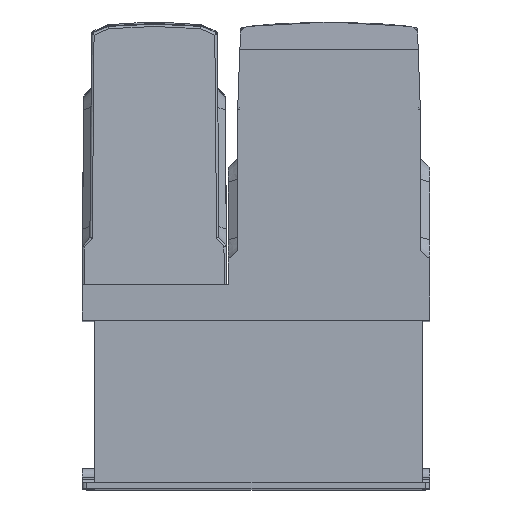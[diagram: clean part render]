
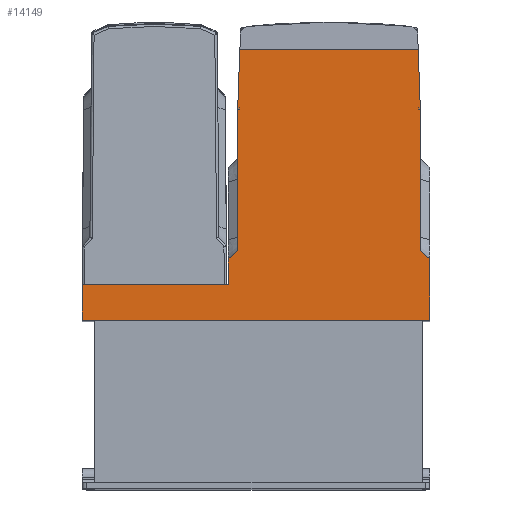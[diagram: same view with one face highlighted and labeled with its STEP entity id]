
A CAD part, top view. The second image highlights one B-rep face of the part: STEP entity #14149.
In plain terms, the highlighted planar face has unit normal (0, 0, 1).
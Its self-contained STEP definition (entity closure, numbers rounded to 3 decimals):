
#275 = VERTEX_POINT ( 'NONE', #8130 ) ;
#338 = EDGE_CURVE ( 'NONE', #3368, #38285, #61785, .T. ) ;
#754 = ORIENTED_EDGE ( 'NONE', *, *, #79773, .F. ) ;
#1113 = DIRECTION ( 'NONE',  ( 1., 0., 0. ) ) ;
#1115 = LINE ( 'NONE', #24025, #34637 ) ;
#1148 = LINE ( 'NONE', #78600, #1632 ) ;
#1507 = LINE ( 'NONE', #39950, #91538 ) ;
#1632 = VECTOR ( 'NONE', #79571, 1000. ) ;
#2158 = EDGE_CURVE ( 'NONE', #29236, #86914, #58835, .T. ) ;
#2391 = LINE ( 'NONE', #32824, #98631 ) ;
#3368 = VERTEX_POINT ( 'NONE', #23032 ) ;
#4167 = CARTESIAN_POINT ( 'NONE',  ( 66.5, 155.673, 182.25 ) ) ;
#4655 = VECTOR ( 'NONE', #25195, 1000. ) ;
#5837 = CARTESIAN_POINT ( 'NONE',  ( -7.8, 155.697, 182.25 ) ) ;
#6347 = LINE ( 'NONE', #5837, #33909 ) ;
#8130 = CARTESIAN_POINT ( 'NONE',  ( 66.5, 97.673, 182.25 ) ) ;
#8649 = ORIENTED_EDGE ( 'NONE', *, *, #28658, .F. ) ;
#9796 = EDGE_CURVE ( 'NONE', #86914, #23557, #1148, .T. ) ;
#10754 = CARTESIAN_POINT ( 'NONE',  ( -72.5, 69.173, 182.25 ) ) ;
#11815 = VERTEX_POINT ( 'NONE', #51881 ) ;
#14142 = CARTESIAN_POINT ( 'NONE',  ( -72.5, 69.173, 182.25 ) ) ;
#14149 = ADVANCED_FACE ( 'NONE', ( #86079 ), #23542, .T. ) ;
#15318 = CARTESIAN_POINT ( 'NONE',  ( 65.8, 155.697, 182.25 ) ) ;
#17684 = VECTOR ( 'NONE', #34563, 1000. ) ;
#18222 = ORIENTED_EDGE ( 'NONE', *, *, #2158, .T. ) ;
#18827 = VERTEX_POINT ( 'NONE', #48163 ) ;
#18910 = CARTESIAN_POINT ( 'NONE',  ( -12.5, 83.673, 182.25 ) ) ;
#19228 = CARTESIAN_POINT ( 'NONE',  ( -12.5, 83.673, 182.25 ) ) ;
#19393 = CARTESIAN_POINT ( 'NONE',  ( 66.5, 155.673, 182.25 ) ) ;
#20828 = VECTOR ( 'NONE', #92107, 1000. ) ;
#22192 = LINE ( 'NONE', #60165, #20828 ) ;
#23032 = CARTESIAN_POINT ( 'NONE',  ( -72.5, 69.173, 182.25 ) ) ;
#23542 = PLANE ( 'NONE',  #74757 ) ;
#23557 = VERTEX_POINT ( 'NONE', #72642 ) ;
#23812 = EDGE_CURVE ( 'NONE', #44400, #18827, #1115, .T. ) ;
#24025 = CARTESIAN_POINT ( 'NONE',  ( -8.5, 156.422, 182.25 ) ) ;
#25195 = DIRECTION ( 'NONE',  ( 1., 0., 0. ) ) ;
#25840 = VERTEX_POINT ( 'NONE', #43135 ) ;
#25977 = EDGE_CURVE ( 'NONE', #25840, #41417, #97935, .T. ) ;
#26349 = LINE ( 'NONE', #18910, #96656 ) ;
#26509 = CARTESIAN_POINT ( 'NONE',  ( -8.5, 156.422, 182.25 ) ) ;
#26982 = ORIENTED_EDGE ( 'NONE', *, *, #75261, .F. ) ;
#28079 = EDGE_CURVE ( 'NONE', #275, #29236, #91278, .T. ) ;
#28658 = EDGE_CURVE ( 'NONE', #91242, #71726, #26349, .T. ) ;
#28703 = ORIENTED_EDGE ( 'NONE', *, *, #94409, .T. ) ;
#29236 = VERTEX_POINT ( 'NONE', #4167 ) ;
#29416 = DIRECTION ( 'NONE',  ( -0.999, -0.035, 0. ) ) ;
#29612 = EDGE_CURVE ( 'NONE', #36318, #18827, #74538, .T. ) ;
#30135 = CARTESIAN_POINT ( 'NONE',  ( 70.5, 69.173, 182.25 ) ) ;
#30917 = CARTESIAN_POINT ( 'NONE',  ( 66.5, 97.673, 182.25 ) ) ;
#31283 = DIRECTION ( 'NONE',  ( 0., 1., 0. ) ) ;
#32824 = CARTESIAN_POINT ( 'NONE',  ( -12.5, 94.317, 182.25 ) ) ;
#32888 = ORIENTED_EDGE ( 'NONE', *, *, #83374, .F. ) ;
#33909 = VECTOR ( 'NONE', #36322, 1000. ) ;
#34563 = DIRECTION ( 'NONE',  ( -0.999, 0.035, 0. ) ) ;
#34637 = VECTOR ( 'NONE', #56046, 1000. ) ;
#35389 = DIRECTION ( 'NONE',  ( 0., 1., 0. ) ) ;
#36318 = VERTEX_POINT ( 'NONE', #93514 ) ;
#36322 = DIRECTION ( 'NONE',  ( 0., 1., 0. ) ) ;
#36466 = LINE ( 'NONE', #95956, #74924 ) ;
#38285 = VERTEX_POINT ( 'NONE', #91567 ) ;
#39950 = CARTESIAN_POINT ( 'NONE',  ( -72.5, 83.673, 182.25 ) ) ;
#39953 = CARTESIAN_POINT ( 'NONE',  ( -7.8, 156.397, 182.25 ) ) ;
#40053 = CARTESIAN_POINT ( 'NONE',  ( -71.5, 69.173, 182.25 ) ) ;
#40365 = ORIENTED_EDGE ( 'NONE', *, *, #25977, .T. ) ;
#40717 = LINE ( 'NONE', #10754, #4655 ) ;
#40915 = DIRECTION ( 'NONE',  ( 0.035, -0.999, 0. ) ) ;
#41417 = VERTEX_POINT ( 'NONE', #65422 ) ;
#41976 = EDGE_CURVE ( 'NONE', #11815, #23557, #22192, .T. ) ;
#43135 = CARTESIAN_POINT ( 'NONE',  ( -7.8, 155.697, 182.25 ) ) ;
#43498 = DIRECTION ( 'NONE',  ( -1., 0., 0. ) ) ;
#44400 = VERTEX_POINT ( 'NONE', #26509 ) ;
#46618 = EDGE_CURVE ( 'NONE', #41417, #95768, #36466, .T. ) ;
#47192 = ORIENTED_EDGE ( 'NONE', *, *, #76357, .F. ) ;
#48163 = CARTESIAN_POINT ( 'NONE',  ( -7.664, 180.373, 182.25 ) ) ;
#50890 = VECTOR ( 'NONE', #98275, 1000. ) ;
#51069 = VECTOR ( 'NONE', #84469, 1000. ) ;
#51881 = CARTESIAN_POINT ( 'NONE',  ( 66.5, 156.422, 182.25 ) ) ;
#53215 = VERTEX_POINT ( 'NONE', #30135 ) ;
#53267 = LINE ( 'NONE', #97800, #50890 ) ;
#53727 = VECTOR ( 'NONE', #40915, 1000. ) ;
#55417 = ORIENTED_EDGE ( 'NONE', *, *, #41976, .F. ) ;
#56046 = DIRECTION ( 'NONE',  ( 0.035, 0.999, 0. ) ) ;
#57449 = EDGE_LOOP ( 'NONE', ( #89404, #28703, #64271, #92143, #75047, #18222, #89767, #55417, #26982, #76152, #57743, #754, #32888, #40365, #73572, #47192, #8649, #95784 ) ) ;
#57606 = EDGE_CURVE ( 'NONE', #38285, #91242, #1507, .T. ) ;
#57635 = CARTESIAN_POINT ( 'NONE',  ( -8.5, 97.673, 182.25 ) ) ;
#57743 = ORIENTED_EDGE ( 'NONE', *, *, #23812, .F. ) ;
#58835 = LINE ( 'NONE', #19393, #82535 ) ;
#59468 = CARTESIAN_POINT ( 'NONE',  ( -7.8, 155.697, 182.25 ) ) ;
#60165 = CARTESIAN_POINT ( 'NONE',  ( 66.5, 156.422, 182.25 ) ) ;
#61785 = LINE ( 'NONE', #14142, #63655 ) ;
#63419 = CARTESIAN_POINT ( 'NONE',  ( 65.664, 180.373, 182.25 ) ) ;
#63655 = VECTOR ( 'NONE', #75646, 1000. ) ;
#64271 = ORIENTED_EDGE ( 'NONE', *, *, #94942, .F. ) ;
#65422 = CARTESIAN_POINT ( 'NONE',  ( -8.5, 155.673, 182.25 ) ) ;
#66843 = VERTEX_POINT ( 'NONE', #39953 ) ;
#66931 = DIRECTION ( 'NONE',  ( 0., -1., 0. ) ) ;
#67185 = CARTESIAN_POINT ( 'NONE',  ( 70.5, 94.317, 182.25 ) ) ;
#69909 = VECTOR ( 'NONE', #29416, 1000. ) ;
#70471 = DIRECTION ( 'NONE',  ( 1., 0., 0. ) ) ;
#71726 = VERTEX_POINT ( 'NONE', #75870 ) ;
#72642 = CARTESIAN_POINT ( 'NONE',  ( 65.8, 156.397, 182.25 ) ) ;
#73572 = ORIENTED_EDGE ( 'NONE', *, *, #46618, .T. ) ;
#73692 = EDGE_CURVE ( 'NONE', #275, #82527, #83969, .T. ) ;
#74453 = VECTOR ( 'NONE', #43498, 1000. ) ;
#74538 = LINE ( 'NONE', #90437, #74453 ) ;
#74757 = AXIS2_PLACEMENT_3D ( 'NONE', #40053, #84593, #1113 ) ;
#74924 = VECTOR ( 'NONE', #66931, 1000. ) ;
#75047 = ORIENTED_EDGE ( 'NONE', *, *, #28079, .T. ) ;
#75261 = EDGE_CURVE ( 'NONE', #36318, #11815, #93922, .T. ) ;
#75646 = DIRECTION ( 'NONE',  ( 0., 1., 0. ) ) ;
#75870 = CARTESIAN_POINT ( 'NONE',  ( -12.5, 94.317, 182.25 ) ) ;
#76152 = ORIENTED_EDGE ( 'NONE', *, *, #29612, .T. ) ;
#76357 = EDGE_CURVE ( 'NONE', #71726, #95768, #2391, .T. ) ;
#77808 = CARTESIAN_POINT ( 'NONE',  ( 66.5, 97.673, 182.25 ) ) ;
#78600 = CARTESIAN_POINT ( 'NONE',  ( 65.8, 155.697, 182.25 ) ) ;
#79571 = DIRECTION ( 'NONE',  ( 0., 1., 0. ) ) ;
#79773 = EDGE_CURVE ( 'NONE', #66843, #44400, #88532, .T. ) ;
#82527 = VERTEX_POINT ( 'NONE', #67185 ) ;
#82535 = VECTOR ( 'NONE', #97326, 1000. ) ;
#83374 = EDGE_CURVE ( 'NONE', #25840, #66843, #6347, .T. ) ;
#83969 = LINE ( 'NONE', #30917, #51069 ) ;
#84469 = DIRECTION ( 'NONE',  ( 0.766, -0.643, 0. ) ) ;
#84593 = DIRECTION ( 'NONE',  ( 0., 0., 1. ) ) ;
#85386 = VECTOR ( 'NONE', #31283, 1000. ) ;
#86079 = FACE_OUTER_BOUND ( 'NONE', #57449, .T. ) ;
#86914 = VERTEX_POINT ( 'NONE', #15318 ) ;
#87078 = CARTESIAN_POINT ( 'NONE',  ( -7.8, 156.397, 182.25 ) ) ;
#88532 = LINE ( 'NONE', #87078, #17684 ) ;
#89404 = ORIENTED_EDGE ( 'NONE', *, *, #338, .F. ) ;
#89767 = ORIENTED_EDGE ( 'NONE', *, *, #9796, .T. ) ;
#90437 = CARTESIAN_POINT ( 'NONE',  ( 65.664, 180.373, 182.25 ) ) ;
#91242 = VERTEX_POINT ( 'NONE', #19228 ) ;
#91278 = LINE ( 'NONE', #77808, #85386 ) ;
#91538 = VECTOR ( 'NONE', #70471, 1000. ) ;
#91567 = CARTESIAN_POINT ( 'NONE',  ( -72.5, 83.673, 182.25 ) ) ;
#92107 = DIRECTION ( 'NONE',  ( -0.999, -0.035, 0. ) ) ;
#92143 = ORIENTED_EDGE ( 'NONE', *, *, #73692, .F. ) ;
#92312 = DIRECTION ( 'NONE',  ( 0.766, 0.643, 0. ) ) ;
#93514 = CARTESIAN_POINT ( 'NONE',  ( 65.664, 180.373, 182.25 ) ) ;
#93922 = LINE ( 'NONE', #63419, #53727 ) ;
#94409 = EDGE_CURVE ( 'NONE', #3368, #53215, #40717, .T. ) ;
#94942 = EDGE_CURVE ( 'NONE', #82527, #53215, #53267, .T. ) ;
#95768 = VERTEX_POINT ( 'NONE', #57635 ) ;
#95784 = ORIENTED_EDGE ( 'NONE', *, *, #57606, .F. ) ;
#95956 = CARTESIAN_POINT ( 'NONE',  ( -8.5, 155.673, 182.25 ) ) ;
#96656 = VECTOR ( 'NONE', #35389, 1000. ) ;
#97326 = DIRECTION ( 'NONE',  ( -0.999, 0.035, 0. ) ) ;
#97800 = CARTESIAN_POINT ( 'NONE',  ( 70.5, 94.317, 182.25 ) ) ;
#97935 = LINE ( 'NONE', #59468, #69909 ) ;
#98275 = DIRECTION ( 'NONE',  ( 0., -1., 0. ) ) ;
#98631 = VECTOR ( 'NONE', #92312, 1000. ) ;
